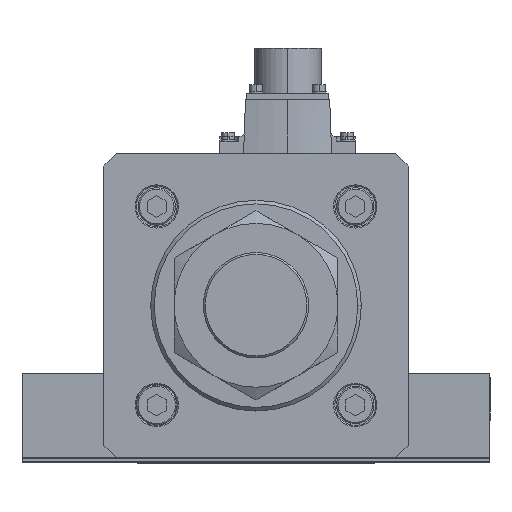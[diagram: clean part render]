
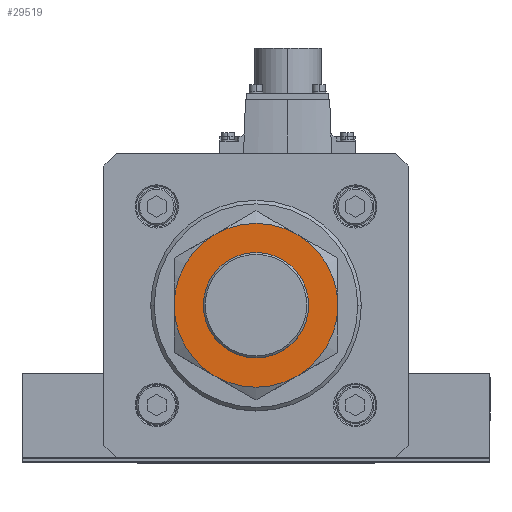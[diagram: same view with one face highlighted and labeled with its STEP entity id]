
A CAD part, top view. The second image highlights one B-rep face of the part: STEP entity #29519.
In plain terms, the highlighted planar face has unit normal (0, 0, 1).
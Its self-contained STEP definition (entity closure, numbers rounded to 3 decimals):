
#844 = DIRECTION ( 'NONE',  ( 0., 0., -1. ) ) ;
#1070 = VERTEX_POINT ( 'NONE', #14048 ) ;
#1211 = ORIENTED_EDGE ( 'NONE', *, *, #5549, .F. ) ;
#1257 = EDGE_CURVE ( 'NONE', #4975, #24210, #37511, .T. ) ;
#1688 = CARTESIAN_POINT ( 'NONE',  ( 0., 0., 27. ) ) ;
#2148 = CARTESIAN_POINT ( 'NONE',  ( 0., 0., 27. ) ) ;
#3130 = VERTEX_POINT ( 'NONE', #16150 ) ;
#3781 = DIRECTION ( 'NONE',  ( -1., 0., 0. ) ) ;
#4040 = ORIENTED_EDGE ( 'NONE', *, *, #1257, .F. ) ;
#4451 = AXIS2_PLACEMENT_3D ( 'NONE', #22418, #4766, #28751 ) ;
#4759 = CIRCLE ( 'NONE', #24724, 35. ) ;
#4766 = DIRECTION ( 'NONE',  ( 0., 0., -1. ) ) ;
#4975 = VERTEX_POINT ( 'NONE', #28764 ) ;
#5345 = PLANE ( 'NONE',  #18941 ) ;
#5522 = DIRECTION ( 'NONE',  ( -1., 0., 0. ) ) ;
#5549 = EDGE_CURVE ( 'NONE', #18623, #1070, #11329, .T. ) ;
#5642 = ORIENTED_EDGE ( 'NONE', *, *, #21027, .F. ) ;
#6685 = VERTEX_POINT ( 'NONE', #29111 ) ;
#7164 = AXIS2_PLACEMENT_3D ( 'NONE', #1688, #31372, #31625 ) ;
#8177 = CIRCLE ( 'NONE', #33413, 35. ) ;
#8338 = CARTESIAN_POINT ( 'NONE',  ( -35., 0., 27. ) ) ;
#8573 = DIRECTION ( 'NONE',  ( 0., 0., 1. ) ) ;
#8740 = CIRCLE ( 'NONE', #20868, 35. ) ;
#9008 = EDGE_LOOP ( 'NONE', ( #10866, #29443, #15955, #34875, #4040, #5642 ) ) ;
#10866 = ORIENTED_EDGE ( 'NONE', *, *, #11270, .F. ) ;
#11169 = DIRECTION ( 'NONE',  ( 0., 0., -1. ) ) ;
#11270 = EDGE_CURVE ( 'NONE', #20061, #3130, #29868, .T. ) ;
#11329 = CIRCLE ( 'NONE', #25266, 22.5 ) ;
#13941 = VERTEX_POINT ( 'NONE', #35266 ) ;
#14048 = CARTESIAN_POINT ( 'NONE',  ( -22.5, 0., 27. ) ) ;
#14961 = ORIENTED_EDGE ( 'NONE', *, *, #18815, .F. ) ;
#15955 = ORIENTED_EDGE ( 'NONE', *, *, #24851, .F. ) ;
#16150 = CARTESIAN_POINT ( 'NONE',  ( 17.5, -30.311, 27. ) ) ;
#16899 = DIRECTION ( 'NONE',  ( 0., 0., -1. ) ) ;
#17088 = CARTESIAN_POINT ( 'NONE',  ( 0., 0., 27. ) ) ;
#18409 = DIRECTION ( 'NONE',  ( 1., 0., 0. ) ) ;
#18623 = VERTEX_POINT ( 'NONE', #28011 ) ;
#18815 = EDGE_CURVE ( 'NONE', #1070, #18623, #36715, .T. ) ;
#18941 = AXIS2_PLACEMENT_3D ( 'NONE', #17088, #8573, #26102 ) ;
#19527 = EDGE_CURVE ( 'NONE', #24210, #13941, #4759, .T. ) ;
#19835 = AXIS2_PLACEMENT_3D ( 'NONE', #36940, #36540, #27441 ) ;
#20061 = VERTEX_POINT ( 'NONE', #25584 ) ;
#20302 = FACE_BOUND ( 'NONE', #36420, .T. ) ;
#20868 = AXIS2_PLACEMENT_3D ( 'NONE', #29075, #22738, #23247 ) ;
#21027 = EDGE_CURVE ( 'NONE', #3130, #4975, #8177, .T. ) ;
#22418 = CARTESIAN_POINT ( 'NONE',  ( 0., 0., 27. ) ) ;
#22738 = DIRECTION ( 'NONE',  ( 0., 0., -1. ) ) ;
#23247 = DIRECTION ( 'NONE',  ( -1., 0., 0. ) ) ;
#24210 = VERTEX_POINT ( 'NONE', #8338 ) ;
#24724 = AXIS2_PLACEMENT_3D ( 'NONE', #2148, #11169, #28457 ) ;
#24851 = EDGE_CURVE ( 'NONE', #13941, #6685, #33008, .T. ) ;
#25266 = AXIS2_PLACEMENT_3D ( 'NONE', #27281, #25698, #18409 ) ;
#25584 = CARTESIAN_POINT ( 'NONE',  ( 35., 0., 27. ) ) ;
#25698 = DIRECTION ( 'NONE',  ( 0., 0., 1. ) ) ;
#26102 = DIRECTION ( 'NONE',  ( 1., 0., 0. ) ) ;
#27281 = CARTESIAN_POINT ( 'NONE',  ( 0., 0., 27. ) ) ;
#27441 = DIRECTION ( 'NONE',  ( -1., 0., 0. ) ) ;
#27632 = CARTESIAN_POINT ( 'NONE',  ( 0., 0., 27. ) ) ;
#28011 = CARTESIAN_POINT ( 'NONE',  ( 22.5, 0., 27. ) ) ;
#28079 = AXIS2_PLACEMENT_3D ( 'NONE', #27632, #844, #3781 ) ;
#28457 = DIRECTION ( 'NONE',  ( -1., 0., 0. ) ) ;
#28751 = DIRECTION ( 'NONE',  ( -1., 0., 0. ) ) ;
#28764 = CARTESIAN_POINT ( 'NONE',  ( -17.5, -30.311, 27. ) ) ;
#29075 = CARTESIAN_POINT ( 'NONE',  ( 0., 0., 27. ) ) ;
#29111 = CARTESIAN_POINT ( 'NONE',  ( 17.5, 30.311, 27. ) ) ;
#29443 = ORIENTED_EDGE ( 'NONE', *, *, #35089, .F. ) ;
#29519 = ADVANCED_FACE ( 'NONE', ( #32806, #20302 ), #5345, .T. ) ;
#29868 = CIRCLE ( 'NONE', #4451, 35. ) ;
#31372 = DIRECTION ( 'NONE',  ( 0., 0., 1. ) ) ;
#31625 = DIRECTION ( 'NONE',  ( 1., 0., 0. ) ) ;
#32806 = FACE_OUTER_BOUND ( 'NONE', #9008, .T. ) ;
#33008 = CIRCLE ( 'NONE', #19835, 35. ) ;
#33413 = AXIS2_PLACEMENT_3D ( 'NONE', #34608, #16899, #5522 ) ;
#34608 = CARTESIAN_POINT ( 'NONE',  ( 0., 0., 27. ) ) ;
#34875 = ORIENTED_EDGE ( 'NONE', *, *, #19527, .F. ) ;
#35089 = EDGE_CURVE ( 'NONE', #6685, #20061, #8740, .T. ) ;
#35266 = CARTESIAN_POINT ( 'NONE',  ( -17.5, 30.311, 27. ) ) ;
#36420 = EDGE_LOOP ( 'NONE', ( #14961, #1211 ) ) ;
#36540 = DIRECTION ( 'NONE',  ( 0., 0., -1. ) ) ;
#36715 = CIRCLE ( 'NONE', #7164, 22.5 ) ;
#36940 = CARTESIAN_POINT ( 'NONE',  ( 0., 0., 27. ) ) ;
#37511 = CIRCLE ( 'NONE', #28079, 35. ) ;
